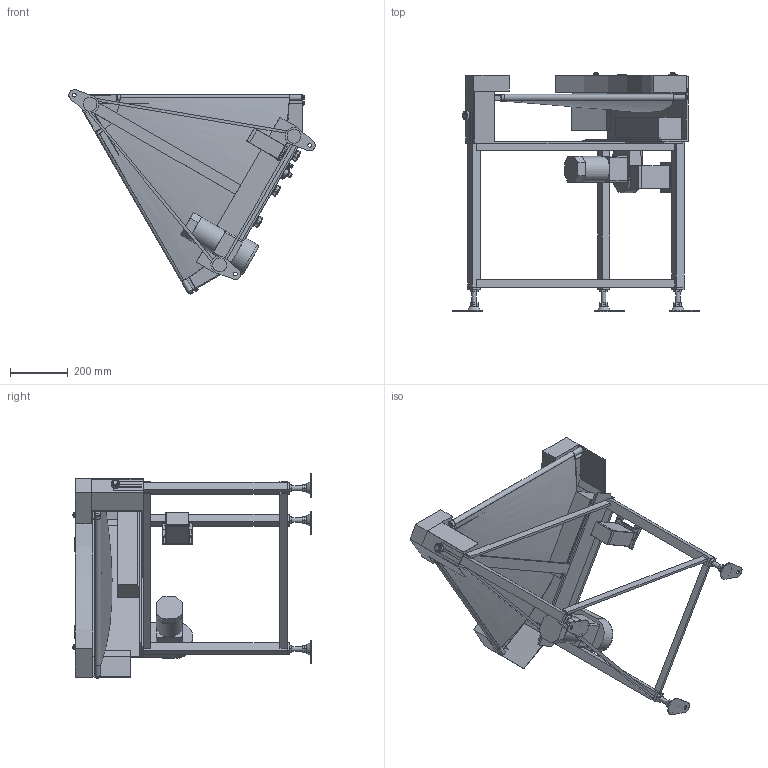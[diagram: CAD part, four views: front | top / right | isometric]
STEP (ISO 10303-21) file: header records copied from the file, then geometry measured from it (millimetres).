
FILE_DESCRIPTION (( 'STEP AP214' ), '1' );
FILE_NAME ('GBC60-UD500-L.STEP', '2022-12-05T23:42:27', ( '' ), ( '' ), 'SwSTEP 2.0', 'SolidWorks 2017', '' );
FILE_SCHEMA (( 'AUTOMOTIVE_DESIGN' ));
Length unit declared in the file: millimetre
Products named in the file (1): GBC60-UD500-L
Bounding box: 853.94 x 827.92 x 709.41 mm (x, y, z)
Volume: 17298354.1 mm3; surface area: 3611105.9 mm2
Topology: 56 solids, 56 shells, 910 faces, 2068 edges, 1327 vertices
Faces by surface type: plane 570, cylinder 185, cone 73, bspline 67, torus 8, sphere 7
Full cylindrical faces by diameter (mm): 4.2 x4, 4.5 x2, 5 x4, 6 x13, 6.4 x4, 7 x3, 8 x1, 9 x2, 10 x6, 12 x1, 12.2 x2, 12.5 x7, 13 x7, 15 x4, 16 x10, 18 x2, 18.4 x1, 20 x6, 21 x1, 22.2 x1, 25 x1, 30 x1, 89 x1
Entity records: 33749 total; most frequent: CARTESIAN_POINT 13754, ORIENTED_EDGE 3836, DIRECTION 3768, EDGE_CURVE 1918, AXIS2_PLACEMENT_3D 1300, VERTEX_POINT 1298, VECTOR 1168, LINE 1168
